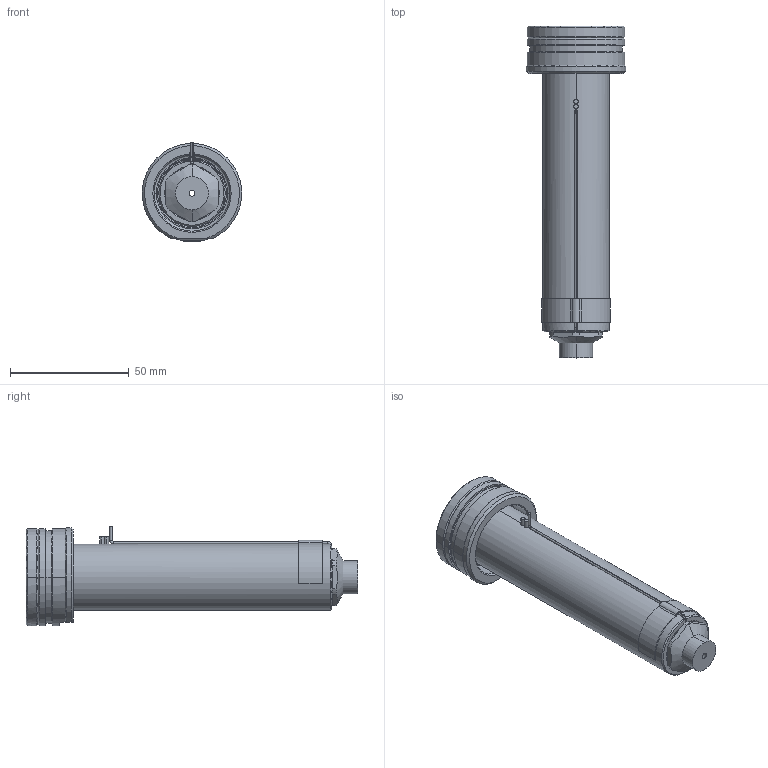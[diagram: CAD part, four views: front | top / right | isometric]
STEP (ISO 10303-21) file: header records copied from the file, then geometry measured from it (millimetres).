
FILE_DESCRIPTION((''),'2;1');
FILE_NAME('EO10_VG-FB_STD_120_SW','2024-02-19T13:33:41',('sundharh'),(''),'CREO PARAMETRIC BY PTC INC, 2023154','CREO PARAMETRIC BY PTC INC, 2023154','');
FILE_SCHEMA(('CONFIG_CONTROL_DESIGN'));
Length unit declared in the file: millimetre
Products named in the file (1): EO10_VG-FB_STD_120_SW
Bounding box: 41.85 x 140 x 42.02 mm (x, y, z)
Volume: 83101.7 mm3; surface area: 23593.8 mm2
Topology: 1 solids, 1 shells, 193 faces, 480 edges, 293 vertices
Faces by surface type: cylinder 71, plane 47, cone 37, torus 23, bspline 13, sphere 2
Entity records: 6690 total; most frequent: CARTESIAN_POINT 2008, DIRECTION 1035, ORIENTED_EDGE 956, EDGE_CURVE 478, AXIS2_PLACEMENT_3D 433, VERTEX_POINT 293, CIRCLE 253, EDGE_LOOP 209
